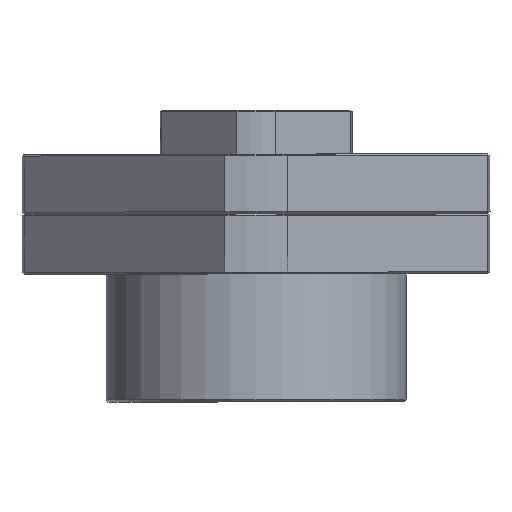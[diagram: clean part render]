
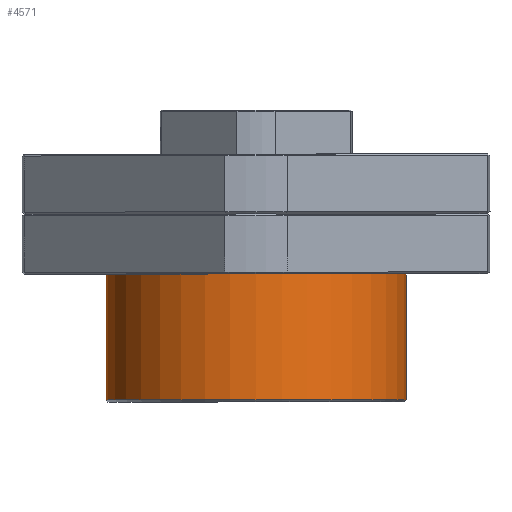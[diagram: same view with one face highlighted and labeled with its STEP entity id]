
A CAD part, left-side view. The second image highlights one B-rep face of the part: STEP entity #4571.
In plain terms, the highlighted cylindrical face has radius 37.5 mm (diameter 75 mm), a partial arc.
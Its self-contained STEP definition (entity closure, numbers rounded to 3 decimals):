
#434 = VERTEX_POINT ( 'NONE', #9586 ) ;
#601 = VERTEX_POINT ( 'NONE', #9750 ) ;
#673 = VERTEX_POINT ( 'NONE', #9811 ) ;
#717 = EDGE_LOOP ( 'NONE', ( #10984, #10891, #10888, #10884 ) ) ;
#1604 = CYLINDRICAL_SURFACE ( 'NONE', #1916, 37.5 ) ;
#1664 = FACE_OUTER_BOUND ( 'NONE', #717, .T. ) ;
#1916 = AXIS2_PLACEMENT_3D ( 'NONE', #10242, #10243, #10244 ) ;
#2381 = AXIS2_PLACEMENT_3D ( 'NONE', #8266, #8270, #8271 ) ;
#2703 = VECTOR ( 'NONE', #2944, 1000. ) ;
#2704 = VECTOR ( 'NONE', #2947, 1000. ) ;
#2809 = AXIS2_PLACEMENT_3D ( 'NONE', #3130, #3134, #3135 ) ;
#2942 = LINE ( 'NONE', #2943, #2703 ) ;
#2943 = CARTESIAN_POINT ( 'NONE',  ( 0., 37.5, -23.5 ) ) ;
#2944 = DIRECTION ( 'NONE',  ( 0., 0., -1. ) ) ;
#2945 = LINE ( 'NONE', #2946, #2704 ) ;
#2946 = CARTESIAN_POINT ( 'NONE',  ( 0., -37.5, -23.5 ) ) ;
#2947 = DIRECTION ( 'NONE',  ( 0., 0., -1. ) ) ;
#3130 = CARTESIAN_POINT ( 'NONE',  ( 0., 0., -23. ) ) ;
#3134 = DIRECTION ( 'NONE',  ( 0., 0., 1. ) ) ;
#3135 = DIRECTION ( 'NONE',  ( 0., 1., 0. ) ) ;
#4114 = CARTESIAN_POINT ( 'NONE',  ( 0., 37.5, 8.5 ) ) ;
#4571 = ADVANCED_FACE ( 'NONE', ( #1664 ), #1604, .T. ) ;
#8266 = CARTESIAN_POINT ( 'NONE',  ( 0., 0., 8.5 ) ) ;
#8270 = DIRECTION ( 'NONE',  ( 0., 0., -1. ) ) ;
#8271 = DIRECTION ( 'NONE',  ( 0., -1., 0. ) ) ;
#9277 = CIRCLE ( 'NONE', #2381, 37.5 ) ;
#9415 = CIRCLE ( 'NONE', #2809, 37.5 ) ;
#9586 = CARTESIAN_POINT ( 'NONE',  ( 0., -37.5, 8.5 ) ) ;
#9750 = CARTESIAN_POINT ( 'NONE',  ( 0., -37.5, -23. ) ) ;
#9811 = CARTESIAN_POINT ( 'NONE',  ( 0., 37.5, -23. ) ) ;
#10242 = CARTESIAN_POINT ( 'NONE',  ( 0., 0., -23.5 ) ) ;
#10243 = DIRECTION ( 'NONE',  ( 0., 0., -1. ) ) ;
#10244 = DIRECTION ( 'NONE',  ( 0., -1., 0. ) ) ;
#10884 = ORIENTED_EDGE ( 'NONE', *, *, #11892, .F. ) ;
#10888 = ORIENTED_EDGE ( 'NONE', *, *, #11951, .T. ) ;
#10891 = ORIENTED_EDGE ( 'NONE', *, *, #11891, .T. ) ;
#10984 = ORIENTED_EDGE ( 'NONE', *, *, #11671, .T. ) ;
#11368 = VERTEX_POINT ( 'NONE', #4114 ) ;
#11671 = EDGE_CURVE ( 'NONE', #434, #11368, #9277, .T. ) ;
#11891 = EDGE_CURVE ( 'NONE', #11368, #673, #2942, .T. ) ;
#11892 = EDGE_CURVE ( 'NONE', #434, #601, #2945, .T. ) ;
#11951 = EDGE_CURVE ( 'NONE', #673, #601, #9415, .T. ) ;
